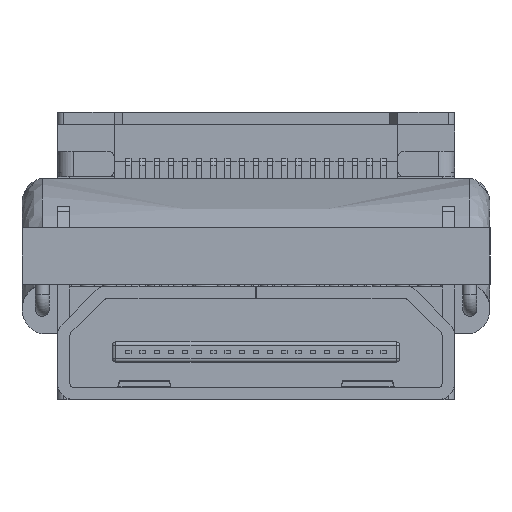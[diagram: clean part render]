
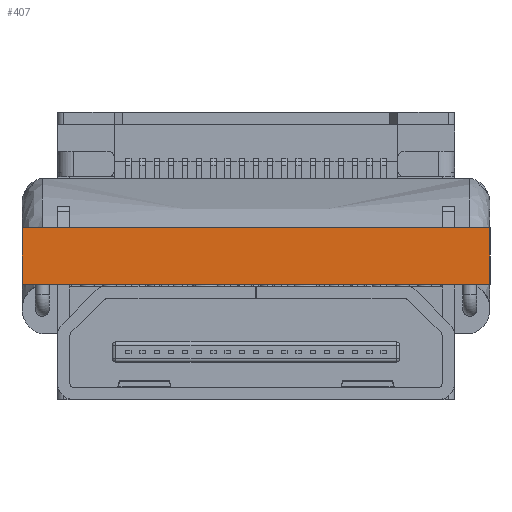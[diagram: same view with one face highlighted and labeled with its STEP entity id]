
A CAD part, front view. The second image highlights one B-rep face of the part: STEP entity #407.
In plain terms, the highlighted planar face has unit normal (0, -1, 0).
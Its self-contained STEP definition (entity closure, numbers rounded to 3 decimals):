
#61 = EDGE_CURVE('',#62,#64,#66,.T.);
#62 = VERTEX_POINT('',#63);
#63 = CARTESIAN_POINT('',(12.007,5.39,0.));
#64 = VERTEX_POINT('',#65);
#65 = CARTESIAN_POINT('',(12.007,5.39,1.6));
#66 = LINE('',#67,#68);
#67 = CARTESIAN_POINT('',(12.007,5.39,0.));
#68 = VECTOR('',#69,1.);
#69 = DIRECTION('',(0.,0.,1.));
#382 = VERTEX_POINT('',#383);
#383 = CARTESIAN_POINT('',(25.209,5.388,1.6));
#389 = EDGE_CURVE('',#390,#382,#392,.T.);
#390 = VERTEX_POINT('',#391);
#391 = CARTESIAN_POINT('',(25.209,5.388,0.));
#392 = LINE('',#393,#394);
#393 = CARTESIAN_POINT('',(25.209,5.388,0.));
#394 = VECTOR('',#395,1.);
#395 = DIRECTION('',(0.,0.,1.));
#407 = ADVANCED_FACE('',(#408),#424,.T.);
#408 = FACE_BOUND('',#409,.T.);
#409 = EDGE_LOOP('',(#410,#411,#417,#418));
#410 = ORIENTED_EDGE('',*,*,#389,.T.);
#411 = ORIENTED_EDGE('',*,*,#412,.T.);
#412 = EDGE_CURVE('',#382,#64,#413,.T.);
#413 = LINE('',#414,#415);
#414 = CARTESIAN_POINT('',(25.209,5.388,1.6));
#415 = VECTOR('',#416,1.);
#416 = DIRECTION('',(-1.,0.,0.));
#417 = ORIENTED_EDGE('',*,*,#61,.F.);
#418 = ORIENTED_EDGE('',*,*,#419,.F.);
#419 = EDGE_CURVE('',#390,#62,#420,.T.);
#420 = LINE('',#421,#422);
#421 = CARTESIAN_POINT('',(25.209,5.388,0.));
#422 = VECTOR('',#423,1.);
#423 = DIRECTION('',(-1.,0.,0.));
#424 = PLANE('',#425);
#425 = AXIS2_PLACEMENT_3D('',#426,#427,#428);
#426 = CARTESIAN_POINT('',(25.209,5.388,0.));
#427 = DIRECTION('',(0.,-1.,0.));
#428 = DIRECTION('',(-1.,0.,0.));
